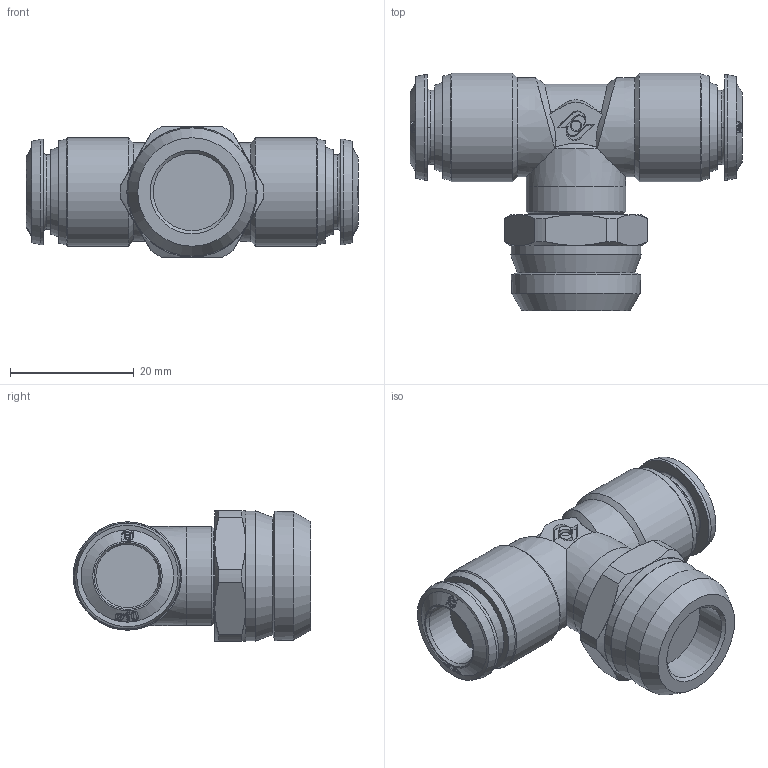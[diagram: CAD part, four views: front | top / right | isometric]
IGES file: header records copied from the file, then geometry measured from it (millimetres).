
Start section: SolidWorks IGES file using analytic representation for surfaces
Global section: file name: K:\Disegni Esecutivi\SERIE 57000\57.000-iges\57211_igs\5721100012A.IGS; native system: SolidWorks 2011; preprocessor: SolidWorks 2011; author: cad05; date: 120615.174102; units: millimetre
Bounding box: 53.6 x 38.35 x 21.03 mm (x, y, z)
Surface area: 6205.6 mm2 (no closed solid volume)
Topology: 0 solids, 0 shells, 279 faces, 2398 edges, 2354 vertices
Faces by surface type: bspline 172, revolution 107
